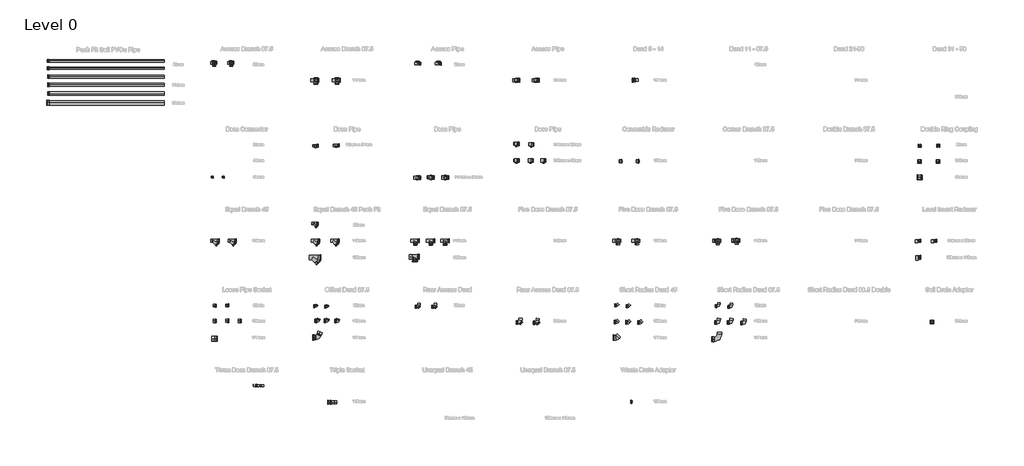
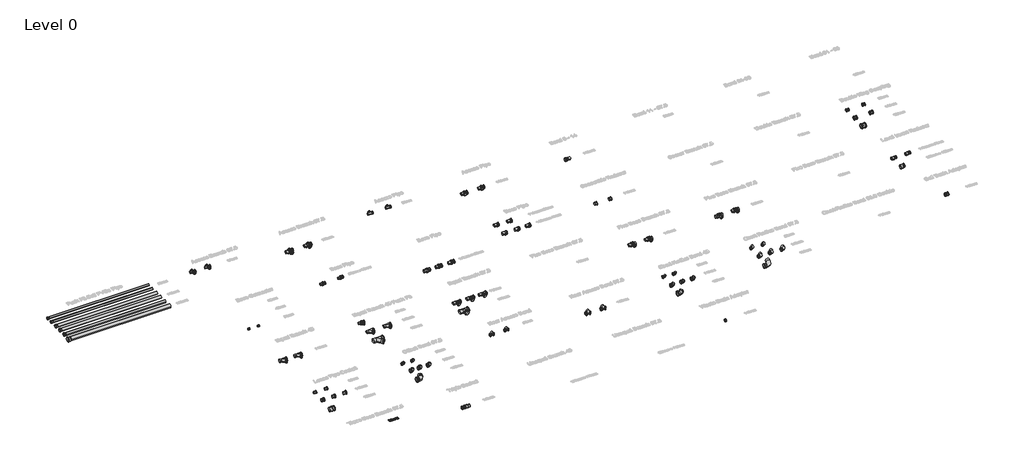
# One storey, part 1 of 23: 88 pipe fittings, 1 proxy.
"""IFC4 building model written with IfcOpenShell, lengths in millimetres."""

from ifc_helpers import new_model, si_unit, point, frame, frame_2d, origin, origin_with_axes, place, context, project, spatial, polyline, circle_curve, trimmed, segment, composite_curve, outline, extrude, transform, mapped, element, save
from components import sa110_110mm_black_25943db1, sa42_110mm_black_3e7455d2, sa420_50mm_black_6babe31f, sb31_82mm_black_072e4290, sb35_82mm_black_14cfb8ee, sb38_82mm_black_0876d828, sb41_110mm_black_aa3cd719, sb42_110mm_black_ad8acbd5, sb45_110mm_black_94220b11, sb46_110mm_grey_d59ce767, se300_82mm_black_4f185216, se305_82mm_black_1b1bb619, se400_110mm_black_a2e12baf, se402_110mm_grey_ff2aa63c, se405_110mm_black_57dad86f, se41_110mm_black_c3975711, se600_160mm_grey_09d1665f, se605_160mm_grey_3b880e0b, sf31_82mm_black_a28e41e7, sf41_110mm_black_394e0064, sfb61_160mm_grey_c58e272d, sfb65_160mm_grey_07c2b157, sne300_82mm_black_0a9ef5f2, sne405_110mm_black_bdd464f6, sne600_160mm_grey_be5d63d1, srm304_110mmx82mm_black_22a10cc0, srm604_160mmx110mm_grey_a2399ba8, sw30_82mm_x_50mm_black_bf87715c, sw40_110mm_x_50mm_black_f85930d2, sw41_110mm_x_40mm_black_7bb6f524, sw415_110mm_x_32mm_black_172070dd, sy34f_82mm_black_2398f142, sy36_82mm_grey_5bc6de29, sy401_110mm_black_66424996, sy402_110mm_black_3ef6cacd, sy415_110mm_black_735aa494, sy460_110mm_black_cbd33f96, sy460_110mm_grey_fb489c11, sy466_110mm_black_24140348, sy466_110mm_grey_a51431d2, sy601_160mm_grey_98f9bbcd, sy63_160mm_grey_e8ac3b36, sys405_110mm_black_4771365e, socket_110mm_black_703dc98e, socket_160mm_grey_d93e64ae, socket_82mm_black_adff162a

model = new_model("IFC4")

# Units and contexts
model_context = context("Model", 3, world=origin())
ifc_project = project(units=[si_unit("LENGTHUNIT", "METRE", prefix="MILLI")], contexts=[model_context])

# Site, building, storey
site = spatial("IfcSite", under=ifc_project)
building = spatial("IfcBuilding", under=site)
storey = spatial("IfcBuildingStorey", under=building, Name="Level 0", Elevation=0.0)

# Proxy
placement = place(None, origin())
element("IfcBuildingElementProxy", 1, Name="100mm Arial", ObjectType="100mm Arial", at=placement, inside=storey, context=model_context, shape_type="SweptSolid", body=[
    extrude(outline(polyline([(-20782.2581649, -2359.118826), (-20793.4721072, -2351.4745952), (-20797.1139341, -2339.5755567), (-20795.1307611, -2329.9541625), (-20789.1812418, -2322.0034413), (-20779.9324438, -2316.6669029), (-20768.0514341, -2314.8880567), (-20756.0983091, -2316.7089702), (-20746.7293188, -2322.1717106), (-20740.6716264, -2330.2486337), (-20738.6523957, -2339.9120952), (-20742.2461457, -2351.5106529), (-20753.147588, -2359.118826), (-20740.0586457, -2368.7702683), (-20735.5754726, -2384.695749), (-20737.7990303, -2396.462576), (-20744.4697034, -2406.1861337), (-20754.7701841, -2412.712576), (-20767.8831649, -2414.8880567), (-20780.9961457, -2412.7035615), (-20791.2966264, -2406.150076), (-20797.9672995, -2396.3333692), (-20800.1908572, -2384.3592106), (-20795.5273957, -2368.0611337), (-20782.2581649, -2359.118826)]), holes=[polyline([(-20784.8062418, -2339.9361337), (-20780.4432611, -2349.5995952), (-20767.7389341, -2353.3495952), (-20755.2870111, -2349.6236337), (-20750.960088, -2340.4890183), (-20755.4312418, -2331.0298837), (-20767.8831649, -2327.195749), (-20780.3711457, -2330.945749), (-20784.8062418, -2339.9361337)]), polyline([(-20787.8831649, -2383.9265183), (-20785.8278764, -2393.1933452), (-20778.5562418, -2400.1284413), (-20767.7870111, -2402.5803644), (-20753.1235495, -2397.4241144), (-20747.8831649, -2384.3111337), (-20753.2918188, -2370.945749), (-20759.7221072, -2366.9794029), (-20768.1956649, -2365.6572875), (-20782.678838, -2370.8736337), (-20787.8831649, -2383.9265183)])]), origin_with_axes(), (0.0, 0.0, 1.0), 15.0),
    extrude(outline(polyline([(-20661.7293188, -2401.0419029), (-20661.7293188, -2413.3495952), (-20726.3447034, -2413.3495952), (-20725.022588, -2404.8640183), (-20717.5466264, -2391.7991144), (-20702.1379726, -2377.5322875), (-20680.8879726, -2357.0274798), (-20675.5754726, -2343.0851721), (-20680.5874918, -2331.7991144), (-20693.6764341, -2327.195749), (-20707.3182611, -2331.6909413), (-20712.4985495, -2344.118826), (-20724.8062418, -2342.5803644), (-20721.8224678, -2330.6753163), (-20715.3711457, -2321.9794029), (-20705.7888139, -2316.6608933), (-20693.4120111, -2314.8880567), (-20680.9450639, -2316.8592106), (-20671.3807611, -2322.7726721), (-20665.2960255, -2331.6068067), (-20663.2677803, -2342.3399798), (-20665.4552803, -2354.0106529), (-20672.7269149, -2366.0779606), (-20690.3591264, -2382.9409413), (-20704.5177803, -2394.7798837), (-20710.0706649, -2401.0419029), (-20661.7293188, -2401.0419029)])), origin_with_axes(), (0.0, 0.0, 1.0), 15.0),
    extrude(outline(polyline([(-20646.3447034, -2413.3495952), (-20646.3447034, -2341.0419029), (-20634.0370111, -2341.0419029), (-20634.0370111, -2352.9409413), (-20625.5754726, -2343.1933452), (-20613.5322034, -2339.5034413), (-20601.2004726, -2343.2654606), (-20594.4216264, -2353.806326), (-20584.8182611, -2343.0791625), (-20572.6908572, -2339.5034413), (-20563.4390543, -2340.9908212), (-20556.5971072, -2345.4529606), (-20552.3693428, -2353.0100519), (-20550.960088, -2363.7822875), (-20550.960088, -2413.3495952), (-20563.2677803, -2413.3495952), (-20563.2677803, -2369.070749), (-20564.4096072, -2358.7943067), (-20568.5442226, -2353.7342106), (-20575.5754726, -2351.8111337), (-20587.678838, -2356.7390183), (-20592.4985495, -2372.5322875), (-20592.4985495, -2413.3495952), (-20604.8062418, -2413.3495952), (-20604.8062418, -2367.7005567), (-20607.6547995, -2355.7774798), (-20616.9937418, -2351.8111337), (-20626.1043188, -2354.4553644), (-20632.1620111, -2362.195749), (-20634.0370111, -2376.883249), (-20634.0370111, -2413.3495952), (-20646.3447034, -2413.3495952)])), origin_with_axes(), (0.0, 0.0, 1.0), 15.0),
    extrude(outline(polyline([(-20532.4985495, -2413.3495952), (-20532.4985495, -2341.0419029), (-20520.1908572, -2341.0419029), (-20520.1908572, -2352.9409413), (-20511.7293188, -2343.1933452), (-20499.6860495, -2339.5034413), (-20487.3543188, -2343.2654606), (-20480.5754726, -2353.806326), (-20470.9721072, -2343.0791625), (-20458.8447034, -2339.5034413), (-20449.5929005, -2340.9908212), (-20442.7509534, -2345.4529606), (-20438.5231889, -2353.0100519), (-20437.1139341, -2363.7822875), (-20437.1139341, -2413.3495952), (-20449.4216264, -2413.3495952), (-20449.4216264, -2369.070749), (-20450.5634534, -2358.7943067), (-20454.6980688, -2353.7342106), (-20461.7293188, -2351.8111337), (-20473.8326841, -2356.7390183), (-20478.6523957, -2372.5322875), (-20478.6523957, -2413.3495952), (-20490.960088, -2413.3495952), (-20490.960088, -2367.7005567), (-20493.8086457, -2355.7774798), (-20503.147588, -2351.8111337), (-20512.2581649, -2354.4553644), (-20518.3158572, -2362.195749), (-20520.1908572, -2376.883249), (-20520.1908572, -2413.3495952), (-20532.4985495, -2413.3495952)])), origin_with_axes(), (0.0, 0.0, 1.0), 15.0),
])

# Pipe fittings
element("IfcPipeFitting", 2, ObjectType="Marley - PVC-u Push-fit soil - Black", at=placement, inside=storey, context=model_context, shape_type="SweptSolid", body=[
    extrude(outline(composite_curve([segment(trimmed(circle_curve(frame_2d((8951.3993442, 0.0)), 41.0), [point((8910.3993442, 0.0))], [point((8951.3993442, 41.0))], False, "CARTESIAN"), True, "CONTINUOUS"), segment(trimmed(circle_curve(frame_2d((8951.3993442, 0.0)), 41.0), [point((8951.3993442, 41.0))], [point((8992.3993442, 0.0))], False, "CARTESIAN"), True, "CONTINUOUS"), segment(trimmed(circle_curve(frame_2d((8951.3993442, 0.0)), 41.0), [point((8992.3993442, 0.0))], [point((8951.3993442, -41.0))], False, "CARTESIAN"), True, "CONTINUOUS"), segment(trimmed(circle_curve(frame_2d((8951.3993442, 0.0)), 41.0), [point((8951.3993442, -41.0))], [point((8910.3993442, 0.0))], False, "CARTESIAN"), True, "CONTINUOUS")], self_intersect=False)), frame((-27902.1440159, 0.0, 0.0), z_axis=(1.0, 0.0, 0.0), x_axis=(0.0, 1.0, 0.0)), (0.0, 0.0, 1.0), 4000.0),
])
element("IfcPipeFitting", 3, ObjectType="Marley - PVC-u Push-fit soil - Grey", at=placement, inside=storey, context=model_context, shape_type="SweptSolid", body=[
    extrude(outline(composite_curve([segment(trimmed(circle_curve(frame_2d((8694.9185654, 0.0)), 41.0), [point((8653.9185654, 0.0))], [point((8694.9185654, 41.0))], False, "CARTESIAN"), True, "CONTINUOUS"), segment(trimmed(circle_curve(frame_2d((8694.9185654, 0.0)), 41.0), [point((8694.9185654, 41.0))], [point((8735.9185654, 0.0))], False, "CARTESIAN"), True, "CONTINUOUS"), segment(trimmed(circle_curve(frame_2d((8694.9185654, 0.0)), 41.0), [point((8735.9185654, 0.0))], [point((8694.9185654, -41.0))], False, "CARTESIAN"), True, "CONTINUOUS"), segment(trimmed(circle_curve(frame_2d((8694.9185654, 0.0)), 41.0), [point((8694.9185654, -41.0))], [point((8653.9185654, 0.0))], False, "CARTESIAN"), True, "CONTINUOUS")], self_intersect=False)), frame((-27902.1440159, 0.0, 0.0), z_axis=(1.0, 0.0, 0.0), x_axis=(0.0, 1.0, 0.0)), (0.0, 0.0, 1.0), 4000.0),
])
element("IfcPipeFitting", 4, ObjectType="Marley - PVC-u Push-fit soil - Black", at=placement, inside=storey, context=model_context, shape_type="SweptSolid", body=[
    extrude(outline(composite_curve([segment(trimmed(circle_curve(frame_2d((8399.9656698, 0.0)), 55.0), [point((8344.9656698, 0.0))], [point((8399.9656698, 55.0))], False, "CARTESIAN"), True, "CONTINUOUS"), segment(trimmed(circle_curve(frame_2d((8399.9656698, 0.0)), 55.0), [point((8399.9656698, 55.0))], [point((8454.9656698, 0.0))], False, "CARTESIAN"), True, "CONTINUOUS"), segment(trimmed(circle_curve(frame_2d((8399.9656698, 0.0)), 55.0), [point((8454.9656698, 0.0))], [point((8399.9656698, -55.0))], False, "CARTESIAN"), True, "CONTINUOUS"), segment(trimmed(circle_curve(frame_2d((8399.9656698, 0.0)), 55.0), [point((8399.9656698, -55.0))], [point((8344.9656698, 0.0))], False, "CARTESIAN"), True, "CONTINUOUS")], self_intersect=False)), frame((-27902.1440159, 0.0, 0.0), z_axis=(1.0, 0.0, 0.0), x_axis=(0.0, 1.0, 0.0)), (0.0, 0.0, 1.0), 4000.0),
])
element("IfcPipeFitting", 5, ObjectType="Marley - PVC-u Push-fit soil - Grey", at=placement, inside=storey, context=model_context, shape_type="SweptSolid", body=[
    extrude(outline(composite_curve([segment(trimmed(circle_curve(frame_2d((8117.8368131, 0.0)), 55.0), [point((8062.8368131, 0.0))], [point((8117.8368131, 55.0))], False, "CARTESIAN"), True, "CONTINUOUS"), segment(trimmed(circle_curve(frame_2d((8117.8368131, 0.0)), 55.0), [point((8117.8368131, 55.0))], [point((8172.8368131, 0.0))], False, "CARTESIAN"), True, "CONTINUOUS"), segment(trimmed(circle_curve(frame_2d((8117.8368131, 0.0)), 55.0), [point((8172.8368131, 0.0))], [point((8117.8368131, -55.0))], False, "CARTESIAN"), True, "CONTINUOUS"), segment(trimmed(circle_curve(frame_2d((8117.8368131, 0.0)), 55.0), [point((8117.8368131, -55.0))], [point((8062.8368131, 0.0))], False, "CARTESIAN"), True, "CONTINUOUS")], self_intersect=False)), frame((-27902.1440159, 0.0, 0.0), z_axis=(1.0, 0.0, 0.0), x_axis=(0.0, 1.0, 0.0)), (0.0, 0.0, 1.0), 4000.0),
])
element("IfcPipeFitting", 6, ObjectType="Marley - PVC-u Push-fit soil - Grey", at=placement, inside=storey, context=model_context, shape_type="SweptSolid", body=[
    extrude(outline(composite_curve([segment(trimmed(circle_curve(frame_2d((7488.9614868, 0.0)), 80.0), [point((7408.9614868, 0.0))], [point((7488.9614868, 80.0))], False, "CARTESIAN"), True, "CONTINUOUS"), segment(trimmed(circle_curve(frame_2d((7488.9614868, 0.0)), 80.0), [point((7488.9614868, 80.0))], [point((7568.9614868, 0.0))], False, "CARTESIAN"), True, "CONTINUOUS"), segment(trimmed(circle_curve(frame_2d((7488.9614868, 0.0)), 80.0), [point((7568.9614868, 0.0))], [point((7488.9614868, -80.0))], False, "CARTESIAN"), True, "CONTINUOUS"), segment(trimmed(circle_curve(frame_2d((7488.9614868, 0.0)), 80.0), [point((7488.9614868, -80.0))], [point((7408.9614868, 0.0))], False, "CARTESIAN"), True, "CONTINUOUS")], self_intersect=False)), frame((-27902.1440159, 0.0, 0.0), z_axis=(1.0, 0.0, 0.0), x_axis=(0.0, 1.0, 0.0)), (0.0, 0.0, 1.0), 4000.0),
])
element("IfcPipeFitting", 7, ObjectType="Marley - PVC-u Push-fit soil - White", at=placement, inside=storey, context=model_context, shape_type="SweptSolid", body=[
    extrude(outline(composite_curve([segment(trimmed(circle_curve(frame_2d((7813.8884152, 0.0)), 55.0), [point((7758.8884152, 0.0))], [point((7813.8884152, 55.0))], False, "CARTESIAN"), True, "CONTINUOUS"), segment(trimmed(circle_curve(frame_2d((7813.8884152, 0.0)), 55.0), [point((7813.8884152, 55.0))], [point((7868.8884152, 0.0))], False, "CARTESIAN"), True, "CONTINUOUS"), segment(trimmed(circle_curve(frame_2d((7813.8884152, 0.0)), 55.0), [point((7868.8884152, 0.0))], [point((7813.8884152, -55.0))], False, "CARTESIAN"), True, "CONTINUOUS"), segment(trimmed(circle_curve(frame_2d((7813.8884152, 0.0)), 55.0), [point((7813.8884152, -55.0))], [point((7758.8884152, 0.0))], False, "CARTESIAN"), True, "CONTINUOUS")], self_intersect=False)), frame((-27902.1440159, 0.0, 0.0), z_axis=(1.0, 0.0, 0.0), x_axis=(0.0, 1.0, 0.0)), (0.0, 0.0, 1.0), 4000.0),
])
sa110_110mm_black_shape = sa110_110mm_black_25943db1(model_context)
element("IfcPipeFitting", 8, ObjectType="MarleyPlumbingAndDrainage_PipeFitting_WasteDrainAdaptor : SA110 - 110mm - Black", at=placement, inside=storey, context=model_context, shape_type="MappedRepresentation", body=[
    mapped(sa110_110mm_black_shape, transform((-7594.2410694, -2939.7854781, 0.0), x_axis=(1.0, 0.0, 0.0), y_axis=(0.0, 1.0, 0.0), z_axis=(0.0, 0.0, 1.0))),
])
sa42_110mm_black_shape = sa42_110mm_black_3e7455d2(model_context)
element("IfcPipeFitting", 9, ObjectType="MarleyPlumbingAndDrainage_PipeFitting_SoilDrainAdaptor : SA42 - 110mm - Black", at=placement, inside=storey, context=model_context, shape_type="MappedRepresentation", body=[
    mapped(sa42_110mm_black_shape, transform((2865.7589306, -155.0596763, 0.0), x_axis=(1.0, 0.0, 0.0), y_axis=(0.0, 1.0, 0.0), z_axis=(0.0, 0.0, 1.0))),
])
sa420_50mm_black_shape = sa420_50mm_black_6babe31f(model_context)
element("IfcPipeFitting", 10, ObjectType="MarleyPlumbingAndDrainage_PipeFitting_BossConnector : SA420 - 50mm - Black", at=placement, inside=storey, context=model_context, shape_type="MappedRepresentation", body=[
    mapped(sa420_50mm_black_shape, transform((-22057.7864861, 4900.2145219, 0.0), x_axis=(1.0, 0.0, 0.0), y_axis=(0.0, 1.0, 0.0), z_axis=(0.0, 0.0, 1.0))),
])
element("IfcPipeFitting", 11, ObjectType="MarleyPlumbingAndDrainage_PipeFitting_BossConnector : SA420 - 50mm - Grey", at=placement, inside=storey, context=model_context, shape_type="MappedRepresentation", body=[
    mapped(sa420_50mm_black_shape, transform((-21677.7864861, 4900.2145219, 0.0), x_axis=(1.0, 0.0, 0.0), y_axis=(0.0, 1.0, 0.0), z_axis=(0.0, 0.0, 1.0))),
])
sb31_82mm_black_shape = sb31_82mm_black_072e4290(model_context)
element("IfcPipeFitting", 12, ObjectType="MarleyPlumbingAndDrainage_PipeFitting_ShortRadiusBend87-5 : SB31 - 82mm - Black", at=placement, inside=storey, context=model_context, shape_type="MappedRepresentation", body=[
    mapped(sb31_82mm_black_shape, transform((-4554.2996631, 399.8047192, 0.0), x_axis=(1.0, 0.0, 0.0), y_axis=(0.0, 1.0, 0.0), z_axis=(0.0, 0.0, 1.0))),
])
element("IfcPipeFitting", 13, ObjectType="MarleyPlumbingAndDrainage_PipeFitting_ShortRadiusBend87-5 : SB31 - 82mm - Grey", at=placement, inside=storey, context=model_context, shape_type="MappedRepresentation", body=[
    mapped(sb31_82mm_black_shape, transform((-4114.2996631, 377.1893875, 0.0), x_axis=(1.0, 0.0, 0.0), y_axis=(0.0, 1.0, 0.0), z_axis=(0.0, 0.0, 1.0))),
])
sb35_82mm_black_shape = sb35_82mm_black_14cfb8ee(model_context)
element("IfcPipeFitting", 14, ObjectType="MarleyPlumbingAndDrainage_PipeFitting_ShortRadiusBend45_SB35 : SB35 - 82mm - Black", at=placement, inside=storey, context=model_context, shape_type="MappedRepresentation", body=[
    mapped(sb35_82mm_black_shape, transform((-8114.2996631, 426.5222742, 0.0), x_axis=(1.0, 0.0, 0.0), y_axis=(0.0, 1.0, 0.0), z_axis=(0.0, 0.0, 1.0))),
])
element("IfcPipeFitting", 15, ObjectType="MarleyPlumbingAndDrainage_PipeFitting_ShortRadiusBend45_SB35 : SB35 - 82mm - Grey", at=placement, inside=storey, context=model_context, shape_type="MappedRepresentation", body=[
    mapped(sb35_82mm_black_shape, transform((-7714.2996631, 400.5146427, 0.0), x_axis=(1.0, 0.0, 0.0), y_axis=(0.0, 1.0, 0.0), z_axis=(0.0, 0.0, 1.0))),
])
sb38_82mm_black_shape = sb38_82mm_black_0876d828(model_context)
element("IfcPipeFitting", 16, ObjectType="MarleyPlumbingAndDrainage_PipeFitting_RearAccessBend : SB38 - 82mm - Black", at=placement, inside=storey, context=model_context, shape_type="MappedRepresentation", body=[
    mapped(sb38_82mm_black_shape, transform((-15027.4996631, 380.7262275, 0.0), x_axis=(1.0, 0.0, 0.0), y_axis=(0.0, 1.0, 0.0), z_axis=(0.0, 0.0, 1.0))),
])
element("IfcPipeFitting", 17, ObjectType="MarleyPlumbingAndDrainage_PipeFitting_RearAccessBend : SB38 - 82mm - Grey", at=placement, inside=storey, context=model_context, shape_type="MappedRepresentation", body=[
    mapped(sb38_82mm_black_shape, transform((-14447.4996631, 376.2031612, 0.0), x_axis=(1.0, 0.0, 0.0), y_axis=(0.0, 1.0, 0.0), z_axis=(0.0, 0.0, 1.0))),
])
sb41_110mm_black_shape = sb41_110mm_black_aa3cd719(model_context)
element("IfcPipeFitting", 18, ObjectType="MarleyPlumbingAndDrainage_PipeFitting_ShortRadiusBend87-5 : SB41 - 110mm - Black", at=placement, inside=storey, context=model_context, shape_type="MappedRepresentation", body=[
    mapped(sb41_110mm_black_shape, transform((-4554.2996631, -170.1016387, 0.0), x_axis=(1.0, 0.0, 0.0), y_axis=(0.0, 1.0, 0.0), z_axis=(0.0, 0.0, 1.0))),
])
element("IfcPipeFitting", 19, ObjectType="MarleyPlumbingAndDrainage_PipeFitting_ShortRadiusBend87-5 : SB41 - 110mm - Grey", at=placement, inside=storey, context=model_context, shape_type="MappedRepresentation", body=[
    mapped(sb41_110mm_black_shape, transform((-4114.2996631, -170.1016387, 0.0), x_axis=(1.0, 0.0, 0.0), y_axis=(0.0, 1.0, 0.0), z_axis=(0.0, 0.0, 1.0))),
])
element("IfcPipeFitting", 20, ObjectType="MarleyPlumbingAndDrainage_PipeFitting_ShortRadiusBend87-5 : SB41 - 110mm - White", at=placement, inside=storey, context=model_context, shape_type="MappedRepresentation", body=[
    mapped(sb41_110mm_black_shape, transform((-3654.2996631, -188.193904, 0.0), x_axis=(1.0, 0.0, 0.0), y_axis=(0.0, 1.0, 0.0), z_axis=(0.0, 0.0, 1.0))),
])
sb42_110mm_black_shape = sb42_110mm_black_ad8acbd5(model_context)
element("IfcPipeFitting", 21, ObjectType="MarleyPlumbingAndDrainage_PipeFitting_RearAccessBend87-5 : SB42 - 110mm - Black", at=placement, inside=storey, context=model_context, shape_type="MappedRepresentation", body=[
    mapped(sb42_110mm_black_shape, transform((-11487.4996631, -166.5647987, 0.0), x_axis=(1.0, 0.0, 0.0), y_axis=(0.0, 1.0, 0.0), z_axis=(0.0, 0.0, 1.0))),
])
element("IfcPipeFitting", 22, ObjectType="MarleyPlumbingAndDrainage_PipeFitting_RearAccessBend87-5 : SB42 - 110mm - Grey", at=placement, inside=storey, context=model_context, shape_type="MappedRepresentation", body=[
    mapped(sb42_110mm_black_shape, transform((-10887.4996631, -175.6109314, 0.0), x_axis=(1.0, 0.0, 0.0), y_axis=(0.0, 1.0, 0.0), z_axis=(0.0, 0.0, 1.0))),
])
sb45_110mm_black_shape = sb45_110mm_black_94220b11(model_context)
element("IfcPipeFitting", 23, ObjectType="MarleyPlumbingAndDrainage_PipeFitting_ShortRadiusBend45_SB35 : SB45 - 110mm - Black", at=placement, inside=storey, context=model_context, shape_type="MappedRepresentation", body=[
    mapped(sb45_110mm_black_shape, transform((-8114.2996631, -150.8471432, 0.0), x_axis=(1.0, 0.0, 0.0), y_axis=(0.0, 1.0, 0.0), z_axis=(0.0, 0.0, 1.0))),
])
element("IfcPipeFitting", 24, ObjectType="MarleyPlumbingAndDrainage_PipeFitting_ShortRadiusBend45_SB35 : SB45 - 110mm - Grey", at=placement, inside=storey, context=model_context, shape_type="MappedRepresentation", body=[
    mapped(sb45_110mm_black_shape, transform((-7714.2996631, -161.2501958, 0.0), x_axis=(1.0, 0.0, 0.0), y_axis=(0.0, 1.0, 0.0), z_axis=(0.0, 0.0, 1.0))),
])
element("IfcPipeFitting", 25, ObjectType="MarleyPlumbingAndDrainage_PipeFitting_ShortRadiusBend45_SB35 : SB45 - 110mm - White", at=placement, inside=storey, context=model_context, shape_type="MappedRepresentation", body=[
    mapped(sb45_110mm_black_shape, transform((-7294.2996631, -166.451722, 0.0), x_axis=(1.0, 0.0, 0.0), y_axis=(0.0, 1.0, 0.0), z_axis=(0.0, 0.0, 1.0))),
])
sb46_110mm_grey_shape = sb46_110mm_grey_d59ce767(model_context)
element("IfcPipeFitting", 26, ObjectType="MarleyPlumbingAndDrainage_PipeFitting_Bend_(5-14) : SB46 - 110mm - Grey", at=placement, inside=storey, context=model_context, shape_type="MappedRepresentation", body=[
    mapped(sb46_110mm_grey_shape, transform((-7474.2996631, 8280.2145219, 0.0), x_axis=(1.0, 0.0, 0.0), y_axis=(0.0, 1.0, 0.0), z_axis=(0.0, 0.0, 1.0))),
])
se300_82mm_black_shape = se300_82mm_black_4f185216(model_context)
element("IfcPipeFitting", 27, ObjectType="MarleyPlumbingAndDrainage_PipeFitting_LoosePipeSocket : SE300 - 82mm - Black", at=placement, inside=storey, context=model_context, shape_type="MappedRepresentation", body=[
    mapped(se300_82mm_black_shape, transform((-22134.2410694, 420.9224639, 0.0), x_axis=(1.0, 0.0, 0.0), y_axis=(0.0, 1.0, 0.0), z_axis=(0.0, 0.0, 1.0))),
])
element("IfcPipeFitting", 28, ObjectType="MarleyPlumbingAndDrainage_PipeFitting_LoosePipeSocket : SE300 - 82mm - Grey", at=placement, inside=storey, context=model_context, shape_type="MappedRepresentation", body=[
    mapped(se300_82mm_black_shape, transform((-21694.2410694, 424.855565, 0.0), x_axis=(1.0, 0.0, 0.0), y_axis=(0.0, 1.0, 0.0), z_axis=(0.0, 0.0, 1.0))),
])
se305_82mm_black_shape = se305_82mm_black_1b1bb619(model_context)
element("IfcPipeFitting", 29, ObjectType="MarleyPlumbingAndDrainage_PipeFitting_DoubleRingCoupling_SE305 : SE305 - 82mm - Black", at=placement, inside=storey, context=model_context, shape_type="MappedRepresentation", body=[
    mapped(se305_82mm_black_shape, transform((2445.7589306, 5989.391651, 0.0), x_axis=(1.0, 0.0, 0.0), y_axis=(0.0, 1.0, 0.0), z_axis=(0.0, 0.0, 1.0))),
])
element("IfcPipeFitting", 30, ObjectType="MarleyPlumbingAndDrainage_PipeFitting_DoubleRingCoupling_SE305 : SE305 - 82mm - Grey", at=placement, inside=storey, context=model_context, shape_type="MappedRepresentation", body=[
    mapped(se305_82mm_black_shape, transform((3105.7589306, 5999.7947036, 0.0), x_axis=(1.0, 0.0, 0.0), y_axis=(0.0, 1.0, 0.0), z_axis=(0.0, 0.0, 1.0))),
])
se400_110mm_black_shape = se400_110mm_black_a2e12baf(model_context)
element("IfcPipeFitting", 31, ObjectType="MarleyPlumbingAndDrainage_PipeFitting_LoosePipeSocket : SE400 - 110mm - Black", at=placement, inside=storey, context=model_context, shape_type="MappedRepresentation", body=[
    mapped(se400_110mm_black_shape, transform((-22134.2410694, -113.9792937, 0.0), x_axis=(1.0, 0.0, 0.0), y_axis=(0.0, 1.0, 0.0), z_axis=(0.0, 0.0, 1.0))),
])
element("IfcPipeFitting", 32, ObjectType="MarleyPlumbingAndDrainage_PipeFitting_LoosePipeSocket : SE400 - 110mm - Grey", at=placement, inside=storey, context=model_context, shape_type="MappedRepresentation", body=[
    mapped(se400_110mm_black_shape, transform((-21694.2410694, -110.0461926, 0.0), x_axis=(1.0, 0.0, 0.0), y_axis=(0.0, 1.0, 0.0), z_axis=(0.0, 0.0, 1.0))),
])
element("IfcPipeFitting", 33, ObjectType="MarleyPlumbingAndDrainage_PipeFitting_LoosePipeSocket : SE400 - 110mm - White", at=placement, inside=storey, context=model_context, shape_type="MappedRepresentation", body=[
    mapped(se400_110mm_black_shape, transform((-21254.2410694, -113.9792937, 0.0), x_axis=(1.0, 0.0, 0.0), y_axis=(0.0, 1.0, 0.0), z_axis=(0.0, 0.0, 1.0))),
])
se402_110mm_grey_shape = se402_110mm_grey_ff2aa63c(model_context)
element("IfcPipeFitting", 34, ObjectType="MarleyPlumbingAndDrainage_PipeFitting_TripleSocket : SE402 - 110mm - Grey", at=placement, inside=storey, context=model_context, shape_type="MappedRepresentation", body=[
    mapped(se402_110mm_grey_shape, transform((-18034.2410694, -2950.7529305, 0.0), x_axis=(1.0, 0.0, 0.0), y_axis=(0.0, 1.0, 0.0), z_axis=(0.0, 0.0, 1.0))),
])
se405_110mm_black_shape = se405_110mm_black_57dad86f(model_context)
element("IfcPipeFitting", 35, ObjectType="MarleyPlumbingAndDrainage_PipeFitting_DoubleRingCoupling_SE305 : SE405 - 110mm - Black", at=placement, inside=storey, context=model_context, shape_type="MappedRepresentation", body=[
    mapped(se405_110mm_black_shape, transform((2445.7589306, 5443.2313914, 0.0), x_axis=(1.0, 0.0, 0.0), y_axis=(0.0, 1.0, 0.0), z_axis=(0.0, 0.0, 1.0))),
])
element("IfcPipeFitting", 36, ObjectType="MarleyPlumbingAndDrainage_PipeFitting_DoubleRingCoupling_SE305 : SE405 - 110mm - Grey", at=placement, inside=storey, context=model_context, shape_type="MappedRepresentation", body=[
    mapped(se405_110mm_black_shape, transform((3085.7589306, 5443.2313914, 0.0), x_axis=(1.0, 0.0, 0.0), y_axis=(0.0, 1.0, 0.0), z_axis=(0.0, 0.0, 1.0))),
])
se41_110mm_black_shape = se41_110mm_black_c3975711(model_context)
element("IfcPipeFitting", 37, ObjectType="MarleyPlumbingAndDrainage_PipeFitting_ConcentricReducer_SE41 : SE41 - 110mm - Black", at=placement, inside=storey, context=model_context, shape_type="MappedRepresentation", body=[
    mapped(se41_110mm_black_shape, transform((-7934.2410694, 5449.4409113, 0.0), x_axis=(1.0, 0.0, 0.0), y_axis=(0.0, 1.0, 0.0), z_axis=(0.0, 0.0, 1.0))),
])
element("IfcPipeFitting", 38, ObjectType="MarleyPlumbingAndDrainage_PipeFitting_ConcentricReducer_SE41 : SE41 - 110mm - Grey", at=placement, inside=storey, context=model_context, shape_type="MappedRepresentation", body=[
    mapped(se41_110mm_black_shape, transform((-7354.2410694, 5453.9639776, 0.0), x_axis=(1.0, 0.0, 0.0), y_axis=(0.0, 1.0, 0.0), z_axis=(0.0, 0.0, 1.0))),
])
se600_160mm_grey_shape = se600_160mm_grey_09d1665f(model_context)
element("IfcPipeFitting", 39, ObjectType="MarleyPlumbingAndDrainage_PipeFitting_LoosePipeSocket : SE600 - 160mm - Grey", at=placement, inside=storey, context=model_context, shape_type="MappedRepresentation", body=[
    mapped(se600_160mm_grey_shape, transform((-22134.2410694, -735.4092768, 0.0), x_axis=(1.0, 0.0, 0.0), y_axis=(0.0, 1.0, 0.0), z_axis=(0.0, 0.0, 1.0))),
])
se605_160mm_grey_shape = se605_160mm_grey_3b880e0b(model_context)
element("IfcPipeFitting", 40, ObjectType="MarleyPlumbingAndDrainage_PipeFitting_DoubleRingCoupling_SE305 : SE605 - 160mm - Grey", at=placement, inside=storey, context=model_context, shape_type="MappedRepresentation", body=[
    mapped(se605_160mm_grey_shape, transform((2445.7589306, 4891.8696055, 0.0), x_axis=(1.0, 0.0, 0.0), y_axis=(0.0, 1.0, 0.0), z_axis=(0.0, 0.0, 1.0))),
])
sf31_82mm_black_shape = sf31_82mm_black_a28e41e7(model_context)
element("IfcPipeFitting", 41, ObjectType="MarleyPlumbingAndDrainage_PipeFitting_AccessPipe_SF31 : SF31 - 82mm - Black", at=placement, inside=storey, context=model_context, shape_type="MappedRepresentation", body=[
    mapped(sf31_82mm_black_shape, transform((-14556.2711348, 8860.2145219, 0.0), x_axis=(1.0, 0.0, 0.0), y_axis=(0.0, 1.0, 0.0), z_axis=(0.0, 0.0, 1.0))),
])
element("IfcPipeFitting", 42, ObjectType="MarleyPlumbingAndDrainage_PipeFitting_AccessPipe_SF31 : SF31 - 82mm - Grey", at=placement, inside=storey, context=model_context, shape_type="MappedRepresentation", body=[
    mapped(sf31_82mm_black_shape, transform((-13836.2711348, 8860.2145219, 0.0), x_axis=(1.0, 0.0, 0.0), y_axis=(0.0, 1.0, 0.0), z_axis=(0.0, 0.0, 1.0))),
])
sf41_110mm_black_shape = sf41_110mm_black_394e0064(model_context)
element("IfcPipeFitting", 43, ObjectType="MarleyPlumbingAndDrainage_PipeFitting_AccessPipe_SF41 : SF41 - 110mm - Black", at=placement, inside=storey, context=model_context, shape_type="MappedRepresentation", body=[
    mapped(sf41_110mm_black_shape, transform((-11116.2711348, 8280.2145219, 0.0), x_axis=(1.0, 0.0, 0.0), y_axis=(0.0, 1.0, 0.0), z_axis=(0.0, 0.0, 1.0))),
])
element("IfcPipeFitting", 44, ObjectType="MarleyPlumbingAndDrainage_PipeFitting_AccessPipe_SF41 : SF41 - 110mm - Grey", at=placement, inside=storey, context=model_context, shape_type="MappedRepresentation", body=[
    mapped(sf41_110mm_black_shape, transform((-10436.2711348, 8280.2145219, 0.0), x_axis=(1.0, 0.0, 0.0), y_axis=(0.0, 1.0, 0.0), z_axis=(0.0, 0.0, 1.0))),
])
sfb61_160mm_grey_shape = sfb61_160mm_grey_c58e272d(model_context)
element("IfcPipeFitting", 45, ObjectType="MarleyPlumbingAndDrainage_PipeFitting_ShortRadiusBend87-5 : SFB61 - 160mm - Grey", at=placement, inside=storey, context=model_context, shape_type="MappedRepresentation", body=[
    mapped(sfb61_160mm_grey_shape, transform((-4534.2996631, -758.1002619, 0.0), x_axis=(1.0, 0.0, 0.0), y_axis=(0.0, 1.0, 0.0), z_axis=(0.0, 0.0, 1.0))),
])
sfb65_160mm_grey_shape = sfb65_160mm_grey_07c2b157(model_context)
element("IfcPipeFitting", 46, ObjectType="MarleyPlumbingAndDrainage_PipeFitting_ShortRadiusBend45_SB35 : SFB65 - 160mm - Grey", at=placement, inside=storey, context=model_context, shape_type="MappedRepresentation", body=[
    mapped(sfb65_160mm_grey_shape, transform((-8114.2996631, -697.0074028, 0.0), x_axis=(1.0, 0.0, 0.0), y_axis=(0.0, 1.0, 0.0), z_axis=(0.0, 0.0, 1.0))),
])
sne300_82mm_black_shape = sne300_82mm_black_0a9ef5f2(model_context)
element("IfcPipeFitting", 47, ObjectType="MarleyPlumbingAndDrainage_PipeFitting_OffsetBend67-5 : SNE300 - 82mm - Black", at=placement, inside=storey, context=model_context, shape_type="MappedRepresentation", body=[
    mapped(sne300_82mm_black_shape, transform((-18607.4996631, 402.7552447, 0.0), x_axis=(1.0, 0.0, 0.0), y_axis=(0.0, 1.0, 0.0), z_axis=(0.0, 0.0, 1.0))),
])
element("IfcPipeFitting", 48, ObjectType="MarleyPlumbingAndDrainage_PipeFitting_OffsetBend67-5 : SNE300 - 82mm - Grey", at=placement, inside=storey, context=model_context, shape_type="MappedRepresentation", body=[
    mapped(sne300_82mm_black_shape, transform((-18227.4996631, 387.1506658, 0.0), x_axis=(1.0, 0.0, 0.0), y_axis=(0.0, 1.0, 0.0), z_axis=(0.0, 0.0, 1.0))),
])
sne405_110mm_black_shape = sne405_110mm_black_bdd464f6(model_context)
element("IfcPipeFitting", 49, ObjectType="MarleyPlumbingAndDrainage_PipeFitting_OffsetBend67-5 : SNE405 - 110mm - Black", at=placement, inside=storey, context=model_context, shape_type="MappedRepresentation", body=[
    mapped(sne405_110mm_black_shape, transform((-18547.4996631, -109.5452079, 0.0), x_axis=(1.0, 0.0, 0.0), y_axis=(0.0, 1.0, 0.0), z_axis=(0.0, 0.0, 1.0))),
])
element("IfcPipeFitting", 50, ObjectType="MarleyPlumbingAndDrainage_PipeFitting_OffsetBend67-5 : SNE405 - 110mm - Grey", at=placement, inside=storey, context=model_context, shape_type="MappedRepresentation", body=[
    mapped(sne405_110mm_black_shape, transform((-18227.4996631, -109.5452079, 0.0), x_axis=(1.0, 0.0, 0.0), y_axis=(0.0, 1.0, 0.0), z_axis=(0.0, 0.0, 1.0))),
])
element("IfcPipeFitting", 51, ObjectType="MarleyPlumbingAndDrainage_PipeFitting_OffsetBend67-5 : SNE405 - 110mm - White", at=placement, inside=storey, context=model_context, shape_type="MappedRepresentation", body=[
    mapped(sne405_110mm_black_shape, transform((-17867.4996631, -117.6709244, 0.0), x_axis=(1.0, 0.0, 0.0), y_axis=(0.0, 1.0, 0.0), z_axis=(0.0, 0.0, 1.0))),
])
sne600_160mm_grey_shape = sne600_160mm_grey_be5d63d1(model_context)
element("IfcPipeFitting", 52, ObjectType="MarleyPlumbingAndDrainage_PipeFitting_OffsetBend67-5 : SNE600 - 160mm - Grey", at=placement, inside=storey, context=model_context, shape_type="MappedRepresentation", body=[
    mapped(sne600_160mm_grey_shape, transform((-18547.4996631, -689.5652746, 0.0), x_axis=(1.0, 0.0, 0.0), y_axis=(0.0, 1.0, 0.0), z_axis=(0.0, 0.0, 1.0))),
])
srm304_110mmx82mm_black_shape = srm304_110mmx82mm_black_22a10cc0(model_context)
element("IfcPipeFitting", 53, ObjectType="MarleyPlumbingAndDrainage_PipeFitting_LevelInvertReducer : SRM304 - 110mmx82mm - Black", at=placement, inside=storey, context=model_context, shape_type="MappedRepresentation", body=[
    mapped(srm304_110mmx82mm_black_shape, transform((2542.2135139, 2677.0063398, 0.0), x_axis=(1.0, 0.0, 0.0), y_axis=(0.0, 1.0, 0.0), z_axis=(0.0, 0.0, 1.0))),
])
element("IfcPipeFitting", 54, ObjectType="MarleyPlumbingAndDrainage_PipeFitting_LevelInvertReducer : SRM304 - 110mmx82mm - Grey", at=placement, inside=storey, context=model_context, shape_type="MappedRepresentation", body=[
    mapped(srm304_110mmx82mm_black_shape, transform((3102.2135139, 2677.0063398, 0.0), x_axis=(1.0, 0.0, 0.0), y_axis=(0.0, 1.0, 0.0), z_axis=(0.0, 0.0, 1.0))),
])
srm604_160mmx110mm_grey_shape = srm604_160mmx110mm_grey_a2399ba8(model_context)
element("IfcPipeFitting", 55, ObjectType="MarleyPlumbingAndDrainage_PipeFitting_LevelInvertReducer : SRM604 - 160mmx110mm-Grey", at=placement, inside=storey, context=model_context, shape_type="MappedRepresentation", body=[
    mapped(srm604_160mmx110mm_grey_shape, transform((2562.2135139, 2102.5769156, 0.0), x_axis=(1.0, 0.0, 0.0), y_axis=(0.0, 1.0, 0.0), z_axis=(0.0, 0.0, 1.0))),
])
sw30_82mm_x_50mm_black_shape = sw30_82mm_x_50mm_black_bf87715c(model_context)
element("IfcPipeFitting", 56, ObjectType="MarleyPlumbingAndDrainage_PipeFitting_BossPipe_SW30 : SW30 - 82mm x 50mm - Black", at=placement, inside=storey, context=model_context, shape_type="MappedRepresentation", body=[
    mapped(sw30_82mm_x_50mm_black_shape, transform((-18627.4996631, 5991.5549781, 0.0), x_axis=(1.0, 0.0, 0.0), y_axis=(0.0, 1.0, 0.0), z_axis=(0.0, 0.0, 1.0))),
])
element("IfcPipeFitting", 57, ObjectType="MarleyPlumbingAndDrainage_PipeFitting_BossPipe_SW30 : SW30 - 82mm x 50mm - Grey", at=placement, inside=storey, context=model_context, shape_type="MappedRepresentation", body=[
    mapped(sw30_82mm_x_50mm_black_shape, transform((-17907.4996631, 6005.1241771, 0.0), x_axis=(1.0, 0.0, 0.0), y_axis=(0.0, 1.0, 0.0), z_axis=(0.0, 0.0, 1.0))),
])
sw40_110mm_x_50mm_black_shape = sw40_110mm_x_50mm_black_f85930d2(model_context)
element("IfcPipeFitting", 58, ObjectType="MarleyPlumbingAndDrainage_PipeFitting_BossPipe_SW40 : SW40 - 110mm x 50mm - Black", at=placement, inside=storey, context=model_context, shape_type="MappedRepresentation", body=[
    mapped(sw40_110mm_x_50mm_black_shape, transform((-15087.4996631, 4879.0159328, 0.0), x_axis=(1.0, 0.0, 0.0), y_axis=(0.0, 1.0, 0.0), z_axis=(0.0, 0.0, 1.0))),
])
element("IfcPipeFitting", 59, ObjectType="MarleyPlumbingAndDrainage_PipeFitting_BossPipe_SW40 : SW40 - 110mm x 50mm - Grey", at=placement, inside=storey, context=model_context, shape_type="MappedRepresentation", body=[
    mapped(sw40_110mm_x_50mm_black_shape, transform((-14607.4996631, 4889.4189853, 0.0), x_axis=(1.0, 0.0, 0.0), y_axis=(0.0, 1.0, 0.0), z_axis=(0.0, 0.0, 1.0))),
])
element("IfcPipeFitting", 60, ObjectType="MarleyPlumbingAndDrainage_PipeFitting_BossPipe_SW40 : SW40 - 110mm x 50mm - White", at=placement, inside=storey, context=model_context, shape_type="MappedRepresentation", body=[
    mapped(sw40_110mm_x_50mm_black_shape, transform((-14107.4996631, 4884.217459, 0.0), x_axis=(1.0, 0.0, 0.0), y_axis=(0.0, 1.0, 0.0), z_axis=(0.0, 0.0, 1.0))),
])
sw41_110mm_x_40mm_black_shape = sw41_110mm_x_40mm_black_7bb6f524(model_context)
element("IfcPipeFitting", 61, ObjectType="MarleyPlumbingAndDrainage_PipeFitting_BossPipe87-5 : SW41 - 110mm x 40mm - Black", at=placement, inside=storey, context=model_context, shape_type="MappedRepresentation", body=[
    mapped(sw41_110mm_x_40mm_black_shape, transform((-11123.3691226, 5480.2145219, 0.0), x_axis=(1.0, 0.0, 0.0), y_axis=(0.0, 1.0, 0.0), z_axis=(0.0, 0.0, 1.0))),
])
element("IfcPipeFitting", 62, ObjectType="MarleyPlumbingAndDrainage_PipeFitting_BossPipe87-5 : SW41 - 110mm x 40mm - Grey", at=placement, inside=storey, context=model_context, shape_type="MappedRepresentation", body=[
    mapped(sw41_110mm_x_40mm_black_shape, transform((-10623.3691226, 5480.2145219, 0.0), x_axis=(1.0, 0.0, 0.0), y_axis=(0.0, 1.0, 0.0), z_axis=(0.0, 0.0, 1.0))),
])
element("IfcPipeFitting", 63, ObjectType="MarleyPlumbingAndDrainage_PipeFitting_BossPipe87-5 : SW41 - 110mm x 40mm - White", at=placement, inside=storey, context=model_context, shape_type="MappedRepresentation", body=[
    mapped(sw41_110mm_x_40mm_black_shape, transform((-10183.3691226, 5480.2145219, 0.0), x_axis=(1.0, 0.0, 0.0), y_axis=(0.0, 1.0, 0.0), z_axis=(0.0, 0.0, 1.0))),
])
sw415_110mm_x_32mm_black_shape = sw415_110mm_x_32mm_black_172070dd(model_context)
element("IfcPipeFitting", 64, ObjectType="MarleyPlumbingAndDrainage_PipeFitting_BossPipe87-5 : SW415 - 110mm x 32mm - Black", at=placement, inside=storey, context=model_context, shape_type="MappedRepresentation", body=[
    mapped(sw415_110mm_x_32mm_black_shape, transform((-11123.3691226, 6060.2145219, 0.0), x_axis=(1.0, 0.0, 0.0), y_axis=(0.0, 1.0, 0.0), z_axis=(0.0, 0.0, 1.0))),
])
element("IfcPipeFitting", 65, ObjectType="MarleyPlumbingAndDrainage_PipeFitting_BossPipe87-5 : SW415 - 110mm x 32mm - Grey", at=placement, inside=storey, context=model_context, shape_type="MappedRepresentation", body=[
    mapped(sw415_110mm_x_32mm_black_shape, transform((-10608.3691226, 6040.2145219, 0.0), x_axis=(1.0, 0.0, 0.0), y_axis=(0.0, 1.0, 0.0), z_axis=(0.0, 0.0, 1.0))),
])
sy34f_82mm_black_shape = sy34f_82mm_black_2398f142(model_context)
element("IfcPipeFitting", 66, ObjectType="MarleyPlumbingAndDrainage_PipeFitting_AccessBranch87-5_SY34F : SY34F - 82mm - Black", at=placement, inside=storey, context=model_context, shape_type="MappedRepresentation", body=[
    mapped(sy34f_82mm_black_shape, transform((-22169.0664512, 8880.2145219, 0.0), x_axis=(1.0, 0.0, 0.0), y_axis=(0.0, 1.0, 0.0), z_axis=(0.0, 0.0, 1.0))),
])
element("IfcPipeFitting", 67, ObjectType="MarleyPlumbingAndDrainage_PipeFitting_AccessBranch87-5_SY34F : SY34F - 82mm - Grey", at=placement, inside=storey, context=model_context, shape_type="MappedRepresentation", body=[
    mapped(sy34f_82mm_black_shape, transform((-21569.0664512, 8880.2145219, 0.0), x_axis=(1.0, 0.0, 0.0), y_axis=(0.0, 1.0, 0.0), z_axis=(0.0, 0.0, 1.0))),
])
sy36_82mm_grey_shape = sy36_82mm_grey_5bc6de29(model_context)
element("IfcPipeFitting", 68, ObjectType="MarleyPlumbingAndDrainage_PipeFitting_EqualBranch45PushFit_SY36 : SY36 - 82mm - Grey", at=placement, inside=storey, context=model_context, shape_type="MappedRepresentation", body=[
    mapped(sy36_82mm_grey_shape, transform((-18674.2410694, 3280.2145219, 0.0), x_axis=(1.0, 0.0, 0.0), y_axis=(0.0, 1.0, 0.0), z_axis=(0.0, 0.0, 1.0))),
])
sy401_110mm_black_shape = sy401_110mm_black_66424996(model_context)
element("IfcPipeFitting", 69, ObjectType="MarleyPlumbingAndDrainage_PipeFitting_EqualBranch87-5 : SY401 - 110mm - Black", at=placement, inside=storey, context=model_context, shape_type="MappedRepresentation", body=[
    mapped(sy401_110mm_black_shape, transform((-15149.0664512, 2680.2145219, 0.0), x_axis=(1.0, 0.0, 0.0), y_axis=(0.0, 1.0, 0.0), z_axis=(0.0, 0.0, 1.0))),
])
element("IfcPipeFitting", 70, ObjectType="MarleyPlumbingAndDrainage_PipeFitting_EqualBranch87-5 : SY401 - 110mm - Grey", at=placement, inside=storey, context=model_context, shape_type="MappedRepresentation", body=[
    mapped(sy401_110mm_black_shape, transform((-14609.0664512, 2680.2145219, 0.0), x_axis=(1.0, 0.0, 0.0), y_axis=(0.0, 1.0, 0.0), z_axis=(0.0, 0.0, 1.0))),
])
element("IfcPipeFitting", 71, ObjectType="MarleyPlumbingAndDrainage_PipeFitting_EqualBranch87-5 : SY401 - 110mm - White", at=placement, inside=storey, context=model_context, shape_type="MappedRepresentation", body=[
    mapped(sy401_110mm_black_shape, transform((-14109.0664512, 2680.2145219, 0.0), x_axis=(1.0, 0.0, 0.0), y_axis=(0.0, 1.0, 0.0), z_axis=(0.0, 0.0, 1.0))),
])
sy402_110mm_black_shape = sy402_110mm_black_3ef6cacd(model_context)
element("IfcPipeFitting", 72, ObjectType="MarleyPlumbingAndDrainage_PipeFitting_AccessBranch87-5_SY402 : SY402 - 110mm - Black", at=placement, inside=storey, context=model_context, shape_type="MappedRepresentation", body=[
    mapped(sy402_110mm_black_shape, transform((-18627.4996631, 8280.2145219, 0.0), x_axis=(1.0, 0.0, 0.0), y_axis=(0.0, 1.0, 0.0), z_axis=(0.0, 0.0, 1.0))),
])
element("IfcPipeFitting", 73, ObjectType="MarleyPlumbingAndDrainage_PipeFitting_AccessBranch87-5_SY402 : SY402 - 110mm - Grey", at=placement, inside=storey, context=model_context, shape_type="MappedRepresentation", body=[
    mapped(sy402_110mm_black_shape, transform((-17887.4996631, 8280.2145219, 0.0), x_axis=(1.0, 0.0, 0.0), y_axis=(0.0, 1.0, 0.0), z_axis=(0.0, 0.0, 1.0))),
])
sy415_110mm_black_shape = sy415_110mm_black_735aa494(model_context)
element("IfcPipeFitting", 74, ObjectType="MarleyPlumbingAndDrainage_PipeFitting_FiveBossBranch87-5 : SY415 - 110mm - Black", at=placement, inside=storey, context=model_context, shape_type="MappedRepresentation", body=[
    mapped(sy415_110mm_black_shape, transform((-8087.4996631, 2680.2145219, 0.0), x_axis=(1.0, 0.0, 0.0), y_axis=(0.0, 1.0, 0.0), z_axis=(0.0, 0.0, 1.0))),
])
element("IfcPipeFitting", 75, ObjectType="MarleyPlumbingAndDrainage_PipeFitting_FiveBossBranch87-5 : SY415 - 110mm - Grey", at=placement, inside=storey, context=model_context, shape_type="MappedRepresentation", body=[
    mapped(sy415_110mm_black_shape, transform((-7427.4996631, 2680.2145219, 0.0), x_axis=(1.0, 0.0, 0.0), y_axis=(0.0, 1.0, 0.0), z_axis=(0.0, 0.0, 1.0))),
])
sy460_110mm_black_shape = sy460_110mm_black_cbd33f96(model_context)
element("IfcPipeFitting", 76, ObjectType="MarleyPlumbingAndDrainage_PipeFitting_EqualBranch45PushFit : SY460 - 110mm - Black", at=placement, inside=storey, context=model_context, shape_type="MappedRepresentation", body=[
    mapped(sy460_110mm_black_shape, transform((-18674.2410694, 2680.2145219, 0.0), x_axis=(1.0, 0.0, 0.0), y_axis=(0.0, 1.0, 0.0), z_axis=(0.0, 0.0, 1.0))),
])
sy460_110mm_grey_shape = sy460_110mm_grey_fb489c11(model_context)
element("IfcPipeFitting", 77, ObjectType="MarleyPlumbingAndDrainage_PipeFitting_EqualBranch45PushFit : SY460 - 110mm - Grey", at=placement, inside=storey, context=model_context, shape_type="MappedRepresentation", body=[
    mapped(sy460_110mm_grey_shape, transform((-17994.2410694, 2680.2145219, 0.0), x_axis=(1.0, 0.0, 0.0), y_axis=(0.0, 1.0, 0.0), z_axis=(0.0, 0.0, 1.0))),
])
sy466_110mm_black_shape = sy466_110mm_black_24140348(model_context)
element("IfcPipeFitting", 78, ObjectType="MarleyPlumbingAndDrainage_PipeFitting_EqualBranch45PushFit : SY466 - 110mm - Black", at=placement, inside=storey, context=model_context, shape_type="MappedRepresentation", body=[
    mapped(sy466_110mm_black_shape, transform((-22174.2410694, 2680.2145219, 0.0), x_axis=(1.0, 0.0, 0.0), y_axis=(0.0, 1.0, 0.0), z_axis=(0.0, 0.0, 1.0))),
])
sy466_110mm_grey_shape = sy466_110mm_grey_a51431d2(model_context)
element("IfcPipeFitting", 79, ObjectType="MarleyPlumbingAndDrainage_PipeFitting_EqualBranch45PushFit : SY466 - 110mm - Grey", at=placement, inside=storey, context=model_context, shape_type="MappedRepresentation", body=[
    mapped(sy466_110mm_grey_shape, transform((-21574.2410694, 2680.2145219, 0.0), x_axis=(1.0, 0.0, 0.0), y_axis=(0.0, 1.0, 0.0), z_axis=(0.0, 0.0, 1.0))),
])
sy601_160mm_grey_shape = sy601_160mm_grey_98f9bbcd(model_context)
element("IfcPipeFitting", 80, ObjectType="MarleyPlumbingAndDrainage_PipeFitting_EqualBranch87-5 : SY601 - 160mm - Grey", at=placement, inside=storey, context=model_context, shape_type="MappedRepresentation", body=[
    mapped(sy601_160mm_grey_shape, transform((-15169.0664512, 2120.2145219, 0.0), x_axis=(1.0, 0.0, 0.0), y_axis=(0.0, 1.0, 0.0), z_axis=(0.0, 0.0, 1.0))),
])
sy63_160mm_grey_shape = sy63_160mm_grey_e8ac3b36(model_context)
element("IfcPipeFitting", 81, ObjectType="MarleyPlumbingAndDrainage_PipeFitting_EqualBranch45PushFit : SY63 - 160mm - Grey", at=placement, inside=storey, context=model_context, shape_type="MappedRepresentation", body=[
    mapped(sy63_160mm_grey_shape, transform((-18714.2410694, 2100.2145219, 0.0), x_axis=(1.0, 0.0, 0.0), y_axis=(0.0, 1.0, 0.0), z_axis=(0.0, 0.0, 1.0))),
])
sys405_110mm_black_shape = sys405_110mm_black_4771365e(model_context)
element("IfcPipeFitting", 82, ObjectType="MarleyPlumbingAndDrainage_PipeFitting_FiveBossBranch87-5 : SYS405 - 110mm - Black", at=placement, inside=storey, context=model_context, shape_type="MappedRepresentation", body=[
    mapped(sys405_110mm_black_shape, transform((-4607.4996631, 2680.6202829, 0.0), x_axis=(1.0, 0.0, 0.0), y_axis=(0.0, 1.0, 0.0), z_axis=(0.0, 0.0, 1.0))),
])
element("IfcPipeFitting", 83, ObjectType="MarleyPlumbingAndDrainage_PipeFitting_FiveBossBranch87-5 : SYS405 - 110mm - Grey", at=placement, inside=storey, context=model_context, shape_type="MappedRepresentation", body=[
    mapped(sys405_110mm_black_shape, transform((-3947.4996631, 2691.0233354, 0.0), x_axis=(1.0, 0.0, 0.0), y_axis=(0.0, 1.0, 0.0), z_axis=(0.0, 0.0, 1.0))),
])
socket_110mm_black_shape = socket_110mm_black_703dc98e(model_context)
element("IfcPipeFitting", 84, ObjectType="Socket : 110mm - Black", at=placement, inside=storey, context=model_context, shape_type="MappedRepresentation", body=[
    mapped(socket_110mm_black_shape, transform((-27916.9693977, 8399.9656698, 0.0), x_axis=(-1.0, 0.0, 0.0), y_axis=(0.0, -1.0, 0.0), z_axis=(0.0, 0.0, 1.0))),
])
element("IfcPipeFitting", 85, ObjectType="Socket : 110mm - Grey", at=placement, inside=storey, context=model_context, shape_type="MappedRepresentation", body=[
    mapped(socket_110mm_black_shape, transform((-27916.9693977, 8117.8368131, 0.0), x_axis=(-1.0, 0.0, 0.0), y_axis=(0.0, -1.0, 0.0), z_axis=(0.0, 0.0, 1.0))),
])
element("IfcPipeFitting", 86, ObjectType="Socket : 110mm - White", at=placement, inside=storey, context=model_context, shape_type="MappedRepresentation", body=[
    mapped(socket_110mm_black_shape, transform((-27916.9693977, 7813.8884152, 0.0), x_axis=(-1.0, 0.0, 0.0), y_axis=(0.0, -1.0, 0.0), z_axis=(0.0, 0.0, 1.0))),
])
socket_160mm_grey_shape = socket_160mm_grey_d93e64ae(model_context)
element("IfcPipeFitting", 87, ObjectType="Socket : 160mm - Grey", at=placement, inside=storey, context=model_context, shape_type="MappedRepresentation", body=[
    mapped(socket_160mm_grey_shape, transform((-27916.9693977, 7488.9614868, 0.0), x_axis=(-1.0, 0.0, 0.0), y_axis=(0.0, -1.0, 0.0), z_axis=(0.0, 0.0, 1.0))),
])
socket_82mm_black_shape = socket_82mm_black_adff162a(model_context)
element("IfcPipeFitting", 88, ObjectType="Socket : 82mm - Black", at=placement, inside=storey, context=model_context, shape_type="MappedRepresentation", body=[
    mapped(socket_82mm_black_shape, transform((-27916.9693977, 8951.3993442, 0.0), x_axis=(-1.0, 0.0, 0.0), y_axis=(0.0, -1.0, 0.0), z_axis=(0.0, 0.0, 1.0))),
])
element("IfcPipeFitting", 89, ObjectType="Socket : 82mm - Grey", at=placement, inside=storey, context=model_context, shape_type="MappedRepresentation", body=[
    mapped(socket_82mm_black_shape, transform((-27916.9693977, 8694.9185654, 0.0), x_axis=(-1.0, 0.0, 0.0), y_axis=(0.0, -1.0, 0.0), z_axis=(0.0, 0.0, 1.0))),
])

save(model, "model.ifc")
